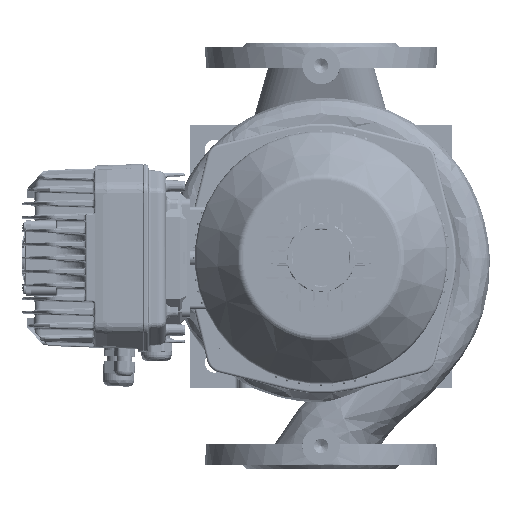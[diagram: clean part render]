
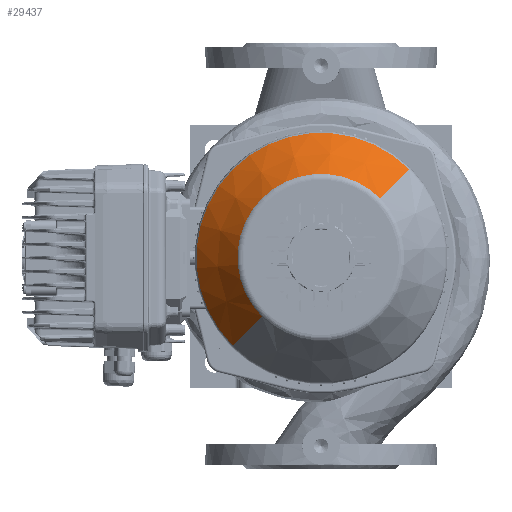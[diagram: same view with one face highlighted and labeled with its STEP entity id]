
A CAD part, top view. The second image highlights one B-rep face of the part: STEP entity #29437.
In plain terms, the highlighted conical face has half-angle 38.66 degrees and reference radius 65 mm.
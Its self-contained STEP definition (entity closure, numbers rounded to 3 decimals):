
#29437=ADVANCED_FACE('NONE',(#99297),#99298,.T.);
#99297=FACE_OUTER_BOUND('',#144743,.T.);
#99298=CONICAL_SURFACE('',#144744,65.,0.675);
#144743=EDGE_LOOP('',(#175048,#175049,#175050,#175051));
#144744=AXIS2_PLACEMENT_3D('',#175052,#175053,#175054);
#175048=ORIENTED_EDGE('',*,*,#201846,.T.);
#175049=ORIENTED_EDGE('',*,*,#201897,.T.);
#175050=ORIENTED_EDGE('',*,*,#201848,.T.);
#175051=ORIENTED_EDGE('',*,*,#201899,.T.);
#175052=CARTESIAN_POINT('',(0.0,110.0,0.0));
#175053=DIRECTION('',(-0.0,-1.0,-0.0));
#175054=DIRECTION('',(0.0,0.0,-1.0));
#201846=EDGE_CURVE('',#291296,#291297,#291298,.T.);
#201848=EDGE_CURVE('',#291301,#291299,#291302,.T.);
#201897=EDGE_CURVE('NONE',#291297,#291301,#291383,.T.);
#201899=EDGE_CURVE('NONE',#291299,#291296,#291385,.T.);
#291296=VERTEX_POINT('',#320816);
#291297=VERTEX_POINT('NONE',#320817);
#291298=LINE('',#320818,#320819);
#291299=VERTEX_POINT('NONE',#320820);
#291301=VERTEX_POINT('',#320822);
#291302=LINE('',#320823,#320824);
#291383=CIRCLE('',#321173,99.685);
#291385=CIRCLE('',#321175,66.801);
#320816=CARTESIAN_POINT('',(0.,107.748,-66.801));
#320817=CARTESIAN_POINT('',(0.0,66.643,-99.685));
#320818=CARTESIAN_POINT('',(0.,110.0,-65.));
#320819=VECTOR('',#330918,1.0);
#320820=CARTESIAN_POINT('',(0.,107.748,66.801));
#320822=CARTESIAN_POINT('',(0.,66.643,99.685));
#320823=CARTESIAN_POINT('',(0.,110.0,65.));
#320824=VECTOR('',#330922,1.0);
#321173=AXIS2_PLACEMENT_3D('',#330999,#331000,#331001);
#321175=AXIS2_PLACEMENT_3D('',#331005,#331006,#331007);
#330918=DIRECTION('',(0.,-0.781,-0.625));
#330922=DIRECTION('',(0.,0.781,-0.625));
#330999=CARTESIAN_POINT('',(0.0,66.643,0.0));
#331000=DIRECTION('',(0.0,1.0,0.0));
#331001=DIRECTION('',(0.0,0.0,1.0));
#331005=CARTESIAN_POINT('',(0.0,107.748,0.0));
#331006=DIRECTION('',(0.0,-1.0,0.0));
#331007=DIRECTION('',(0.0,0.0,1.0));
